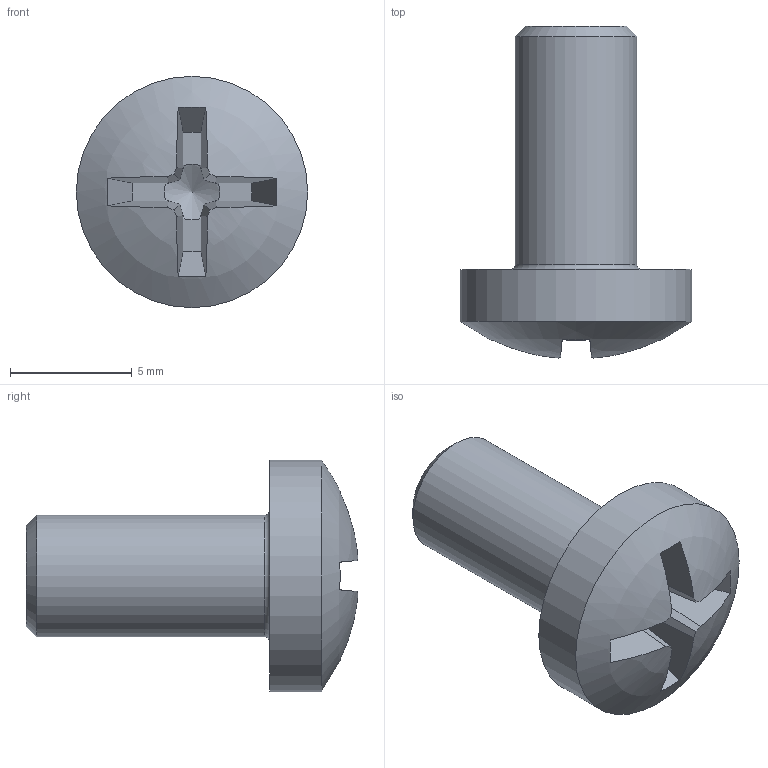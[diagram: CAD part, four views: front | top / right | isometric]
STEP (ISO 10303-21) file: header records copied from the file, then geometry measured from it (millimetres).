
FILE_DESCRIPTION(/* description */ ('STEP AP242 Edition 2','CAx-IF Rec.Pracs.---Representation and Presentation of Product Manufacturing Information (PMI)---4.0---2014-10-13','CAx-IF Rec.Pracs.---3D Tessellated Geometry---0.4---2014-09-14','2;1','CAx-IF Rec.Pracs.---User Defined Attributes---1.5---2016-08-15'),/* implementation_level */ '2;1');
FILE_NAME(/* name */ 'Final Build - M5x10 (1)',/* time_stamp */ '2026-08-31T23:26:16Z',/* author */ (''),/* organization */ (''),/* preprocessor_version */ 'ST-DEVELOPER v20',/* originating_system */ 'ONSHAPE BY PTC INC, 1.220',/* authorisation */ ' ');
FILE_SCHEMA (('AP242_MANAGED_MODEL_BASED_3D_ENGINEERING_MIM_LF { 1 0 10303 442 3 1 4 }'));
Length unit declared in the file: metre
Products named in the file (1): M5x10
Bounding box: 9.5 x 13.63 x 9.5 mm (x, y, z)
Volume: 372.9 mm3; surface area: 415.7 mm2
Topology: 1 solids, 1 shells, 32 faces, 88 edges, 58 vertices
Faces by surface type: plane 26, cylinder 2, cone 2, sphere 1, torus 1
Full cylindrical faces by diameter (mm): 5 x1, 9.5 x1
Entity records: 1002 total; most frequent: CARTESIAN_POINT 214, DIRECTION 158, ORIENTED_EDGE 156, EDGE_CURVE 78, AXIS2_PLACEMENT_3D 63, VERTEX_POINT 55, FACE_BOUND 39, EDGE_LOOP 38
